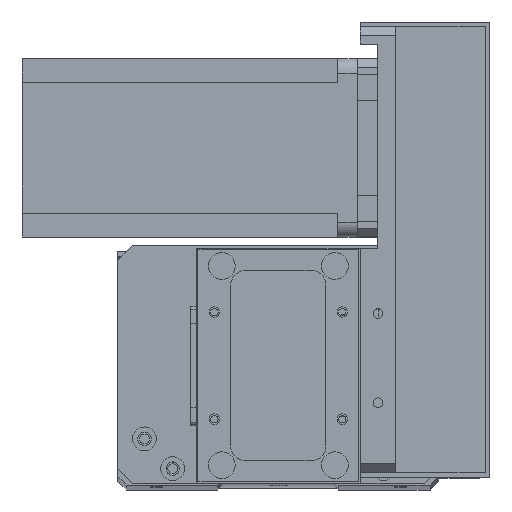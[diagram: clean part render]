
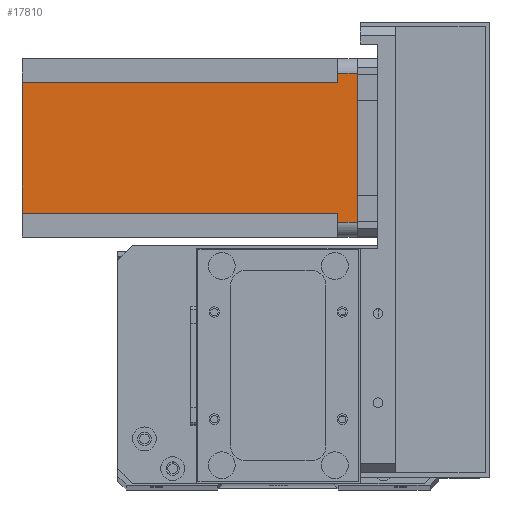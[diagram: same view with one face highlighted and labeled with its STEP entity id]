
A CAD part, top view. The second image highlights one B-rep face of the part: STEP entity #17810.
In plain terms, the highlighted planar face has unit normal (0, 0, 1) as drawn and (0, 1, 0) by its records, which use the part's own axes.
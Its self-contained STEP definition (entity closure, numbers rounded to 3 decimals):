
#372 = VECTOR ( 'NONE', #19697, 1000. ) ;
#645 = AXIS2_PLACEMENT_3D ( 'NONE', #9625, #18922, #5105 ) ;
#1699 = ORIENTED_EDGE ( 'NONE', *, *, #9154, .F. ) ;
#1851 = CARTESIAN_POINT ( 'NONE',  ( 55., 60., -6.5 ) ) ;
#2364 = CARTESIAN_POINT ( 'NONE',  ( 8., 60., -112.5 ) ) ;
#2681 = PLANE ( 'NONE',  #645 ) ;
#3328 = VERTEX_POINT ( 'NONE', #28794 ) ;
#3472 = LINE ( 'NONE', #28762, #26602 ) ;
#3560 = CARTESIAN_POINT ( 'NONE',  ( 52., 60., -6.5 ) ) ;
#4591 = CARTESIAN_POINT ( 'NONE',  ( 0., 60., -112.5 ) ) ;
#4683 = DIRECTION ( 'NONE',  ( -1., 0., 0. ) ) ;
#5105 = DIRECTION ( 'NONE',  ( 0., 0., 1. ) ) ;
#5248 = VERTEX_POINT ( 'NONE', #29332 ) ;
#5545 = DIRECTION ( 'NONE',  ( 0., 0., 1. ) ) ;
#7066 = DIRECTION ( 'NONE',  ( 0., 0., -1. ) ) ;
#8261 = VECTOR ( 'NONE', #27727, 1000. ) ;
#8670 = VECTOR ( 'NONE', #7066, 1000. ) ;
#9154 = EDGE_CURVE ( 'NONE', #28807, #20801, #20551, .T. ) ;
#9625 = CARTESIAN_POINT ( 'NONE',  ( 0., 60., -112.5 ) ) ;
#10172 = CARTESIAN_POINT ( 'NONE',  ( 52., 60., -112.5 ) ) ;
#11065 = VECTOR ( 'NONE', #5545, 1000. ) ;
#11249 = EDGE_CURVE ( 'NONE', #29449, #13511, #16500, .T. ) ;
#11668 = CARTESIAN_POINT ( 'NONE',  ( 0., 60., 0. ) ) ;
#11885 = EDGE_CURVE ( 'NONE', #28807, #21713, #3472, .T. ) ;
#11931 = CARTESIAN_POINT ( 'NONE',  ( 52., 60., -6.5 ) ) ;
#12299 = LINE ( 'NONE', #14788, #23185 ) ;
#12715 = ORIENTED_EDGE ( 'NONE', *, *, #14726, .F. ) ;
#13511 = VERTEX_POINT ( 'NONE', #11931 ) ;
#14418 = EDGE_CURVE ( 'NONE', #29449, #20801, #14481, .T. ) ;
#14481 = LINE ( 'NONE', #4591, #20637 ) ;
#14726 = EDGE_CURVE ( 'NONE', #13511, #25483, #29671, .T. ) ;
#14788 = CARTESIAN_POINT ( 'NONE',  ( 5., 60., -112.5 ) ) ;
#14953 = CARTESIAN_POINT ( 'NONE',  ( 5., 60., -6.5 ) ) ;
#15088 = EDGE_CURVE ( 'NONE', #5248, #25483, #20967, .T. ) ;
#16209 = EDGE_CURVE ( 'NONE', #21713, #3328, #12299, .T. ) ;
#16369 = VECTOR ( 'NONE', #25558, 1000. ) ;
#16500 = LINE ( 'NONE', #10172, #11065 ) ;
#17013 = DIRECTION ( 'NONE',  ( 0., 0., 1. ) ) ;
#17810 = ADVANCED_FACE ( 'NONE', ( #29599 ), #2681, .T. ) ;
#18098 = EDGE_LOOP ( 'NONE', ( #27585, #22309, #12715, #23029, #19464, #1699, #21060, #25582 ) ) ;
#18569 = CARTESIAN_POINT ( 'NONE',  ( 55., 60., -112.5 ) ) ;
#18922 = DIRECTION ( 'NONE',  ( 0., 1., 0. ) ) ;
#19464 = ORIENTED_EDGE ( 'NONE', *, *, #14418, .T. ) ;
#19697 = DIRECTION ( 'NONE',  ( 1., 0., 0. ) ) ;
#20551 = LINE ( 'NONE', #2364, #8261 ) ;
#20637 = VECTOR ( 'NONE', #4683, 1000. ) ;
#20801 = VERTEX_POINT ( 'NONE', #25335 ) ;
#20967 = LINE ( 'NONE', #18569, #8670 ) ;
#21060 = ORIENTED_EDGE ( 'NONE', *, *, #11885, .T. ) ;
#21713 = VERTEX_POINT ( 'NONE', #14953 ) ;
#22309 = ORIENTED_EDGE ( 'NONE', *, *, #15088, .T. ) ;
#23029 = ORIENTED_EDGE ( 'NONE', *, *, #11249, .F. ) ;
#23185 = VECTOR ( 'NONE', #17013, 1000. ) ;
#24108 = DIRECTION ( 'NONE',  ( -1., 0., 0. ) ) ;
#25335 = CARTESIAN_POINT ( 'NONE',  ( 8., 60., -112.5 ) ) ;
#25483 = VERTEX_POINT ( 'NONE', #1851 ) ;
#25558 = DIRECTION ( 'NONE',  ( -1., 0., 0. ) ) ;
#25582 = ORIENTED_EDGE ( 'NONE', *, *, #16209, .T. ) ;
#26269 = EDGE_CURVE ( 'NONE', #5248, #3328, #29409, .T. ) ;
#26602 = VECTOR ( 'NONE', #24108, 1000. ) ;
#27500 = CARTESIAN_POINT ( 'NONE',  ( 52., 60., -112.5 ) ) ;
#27585 = ORIENTED_EDGE ( 'NONE', *, *, #26269, .F. ) ;
#27727 = DIRECTION ( 'NONE',  ( 0., 0., -1. ) ) ;
#28762 = CARTESIAN_POINT ( 'NONE',  ( 8., 60., -6.5 ) ) ;
#28794 = CARTESIAN_POINT ( 'NONE',  ( 5., 60., 0. ) ) ;
#28807 = VERTEX_POINT ( 'NONE', #29470 ) ;
#29332 = CARTESIAN_POINT ( 'NONE',  ( 55., 60., 0. ) ) ;
#29409 = LINE ( 'NONE', #11668, #16369 ) ;
#29449 = VERTEX_POINT ( 'NONE', #27500 ) ;
#29470 = CARTESIAN_POINT ( 'NONE',  ( 8., 60., -6.5 ) ) ;
#29599 = FACE_OUTER_BOUND ( 'NONE', #18098, .T. ) ;
#29671 = LINE ( 'NONE', #3560, #372 ) ;
